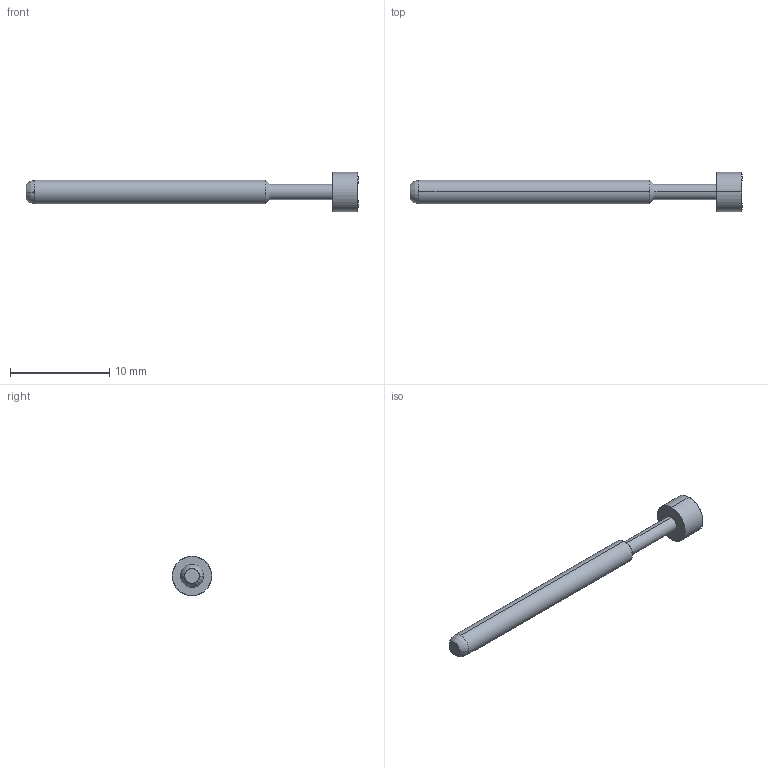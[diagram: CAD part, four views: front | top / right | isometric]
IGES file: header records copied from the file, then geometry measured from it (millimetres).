
Start section: SolidWorks IGES file using analytic representation for surfaces
Global section: file name: Z:\probe solid model mockups\Solidworks models\IGES Files\EPA-4 IGES files\EPA-4A.IGS; native system: SolidWorks 2006 by SolidWorks Corporation; preprocessor: SolidWorks 2006 by SolidWorks Corporation; author: tsakatani; date: 080103.104011; units: inch
Bounding box: 33.53 x 3.96 x 3.96 mm (x, y, z)
Surface area: 275.1 mm2 (no closed solid volume)
Topology: 0 solids, 0 shells, 14 faces, 116 edges, 114 vertices
Faces by surface type: revolution 12, bspline 2
